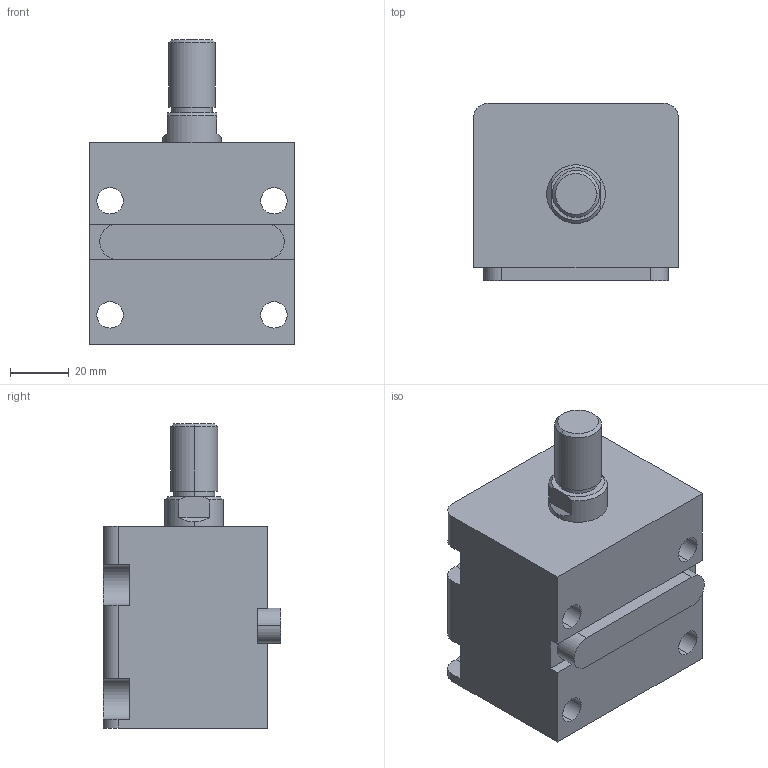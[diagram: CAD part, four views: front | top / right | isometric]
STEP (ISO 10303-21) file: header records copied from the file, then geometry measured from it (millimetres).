
FILE_DESCRIPTION (( 'STEP AP203' ), '1' );
FILE_NAME ('HTB-LA32-15W.STEP', '2019-10-09T06:25:32', ( '微软用户' ), ( '微软中国' ), 'SwSTEP 2.0', 'SolidWorks 2012', '' );
FILE_SCHEMA (( 'CONFIG_CONTROL_DESIGN' ));
Length unit declared in the file: millimetre
Products named in the file (4): HTB-LA32-15掛极; HTB-LA32-15W活塞杆; HTB-LA32-瑩; HTB-LA32-15W
Assembly tree (3 placements, depth 2):
  HTB-LA32-15W
    HTB-LA32-15掛极
    HTB-LA32-15W活塞杆
    HTB-LA32-瑩
Bounding box: 70 x 60.5 x 104 mm (x, y, z)
Volume: 253149.5 mm3; surface area: 47979.9 mm2
Topology: 3 solids, 3 shells, 92 faces, 223 edges, 146 vertices
Faces by surface type: plane 41, cylinder 37, cone 8, torus 6
Entity records: 3159 total; most frequent: DIRECTION 509, CARTESIAN_POINT 495, ORIENTED_EDGE 446, EDGE_CURVE 223, AXIS2_PLACEMENT_3D 196, VERTEX_POINT 146, LINE 117, VECTOR 117
